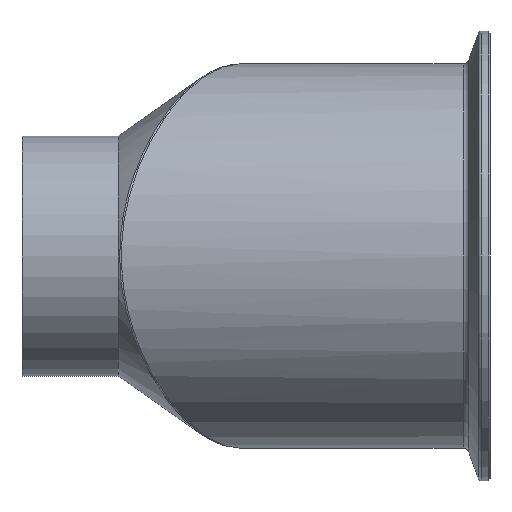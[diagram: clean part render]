
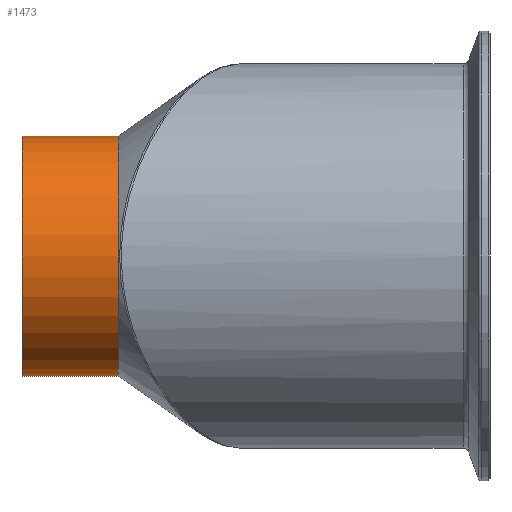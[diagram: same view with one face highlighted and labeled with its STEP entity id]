
A CAD part, front view. The second image highlights one B-rep face of the part: STEP entity #1473.
In plain terms, the highlighted cylindrical face has radius 31.75 mm (diameter 63.5 mm), a partial arc.
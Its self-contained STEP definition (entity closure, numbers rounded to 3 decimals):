
#179 = EDGE_LOOP ( 'NONE', ( #1555, #1680, #873, #977 ) ) ;
#233 = EDGE_CURVE ( 'NONE', #1796, #363, #1675, .T. ) ;
#237 = AXIS2_PLACEMENT_3D ( 'NONE', #384, #256, #672 ) ;
#256 = DIRECTION ( 'NONE',  ( 1., 0., 0. ) ) ;
#363 = VERTEX_POINT ( 'NONE', #1440 ) ;
#384 = CARTESIAN_POINT ( 'NONE',  ( -36.512, -18.601, 0. ) ) ;
#398 = CARTESIAN_POINT ( 'NONE',  ( -36.512, -18.601, 31.75 ) ) ;
#450 = VECTOR ( 'NONE', #587, 1000. ) ;
#534 = VERTEX_POINT ( 'NONE', #1485 ) ;
#565 = FACE_OUTER_BOUND ( 'NONE', #179, .T. ) ;
#587 = DIRECTION ( 'NONE',  ( 1., 0., 0. ) ) ;
#629 = DIRECTION ( 'NONE',  ( 0., 0., -1. ) ) ;
#672 = DIRECTION ( 'NONE',  ( 0., 0., -1. ) ) ;
#822 = CARTESIAN_POINT ( 'NONE',  ( -61.912, -18.601, 0. ) ) ;
#873 = ORIENTED_EDGE ( 'NONE', *, *, #2131, .T. ) ;
#898 = CARTESIAN_POINT ( 'NONE',  ( -61.912, -18.601, -31.75 ) ) ;
#941 = CIRCLE ( 'NONE', #1458, 31.75 ) ;
#977 = ORIENTED_EDGE ( 'NONE', *, *, #233, .F. ) ;
#1040 = AXIS2_PLACEMENT_3D ( 'NONE', #1421, #1394, #1387 ) ;
#1207 = DIRECTION ( 'NONE',  ( 1., 0., 0. ) ) ;
#1387 = DIRECTION ( 'NONE',  ( 0., 0., -1. ) ) ;
#1394 = DIRECTION ( 'NONE',  ( 1., 0., 0. ) ) ;
#1421 = CARTESIAN_POINT ( 'NONE',  ( -12.145, -18.601, 0. ) ) ;
#1429 = EDGE_CURVE ( 'NONE', #534, #1796, #2012, .T. ) ;
#1440 = CARTESIAN_POINT ( 'NONE',  ( -36.512, -18.601, -31.75 ) ) ;
#1458 = AXIS2_PLACEMENT_3D ( 'NONE', #822, #1207, #629 ) ;
#1473 = ADVANCED_FACE ( 'NONE', ( #565 ), #1822, .T. ) ;
#1485 = CARTESIAN_POINT ( 'NONE',  ( -61.912, -18.601, 31.75 ) ) ;
#1509 = VECTOR ( 'NONE', #1510, 1000. ) ;
#1510 = DIRECTION ( 'NONE',  ( 1., 0., 0. ) ) ;
#1546 = CARTESIAN_POINT ( 'NONE',  ( -12.145, -18.601, 31.75 ) ) ;
#1555 = ORIENTED_EDGE ( 'NONE', *, *, #1429, .F. ) ;
#1567 = EDGE_CURVE ( 'NONE', #534, #1630, #941, .T. ) ;
#1630 = VERTEX_POINT ( 'NONE', #898 ) ;
#1675 = CIRCLE ( 'NONE', #237, 31.75 ) ;
#1680 = ORIENTED_EDGE ( 'NONE', *, *, #1567, .T. ) ;
#1766 = LINE ( 'NONE', #2056, #450 ) ;
#1796 = VERTEX_POINT ( 'NONE', #398 ) ;
#1822 = CYLINDRICAL_SURFACE ( 'NONE', #1040, 31.75 ) ;
#2012 = LINE ( 'NONE', #1546, #1509 ) ;
#2056 = CARTESIAN_POINT ( 'NONE',  ( -12.145, -18.601, -31.75 ) ) ;
#2131 = EDGE_CURVE ( 'NONE', #1630, #363, #1766, .T. ) ;
